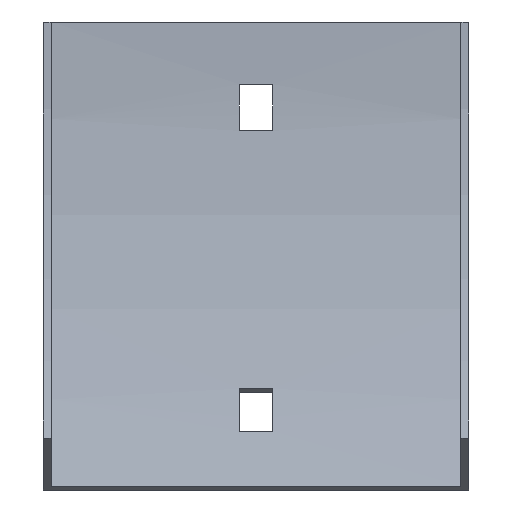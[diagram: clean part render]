
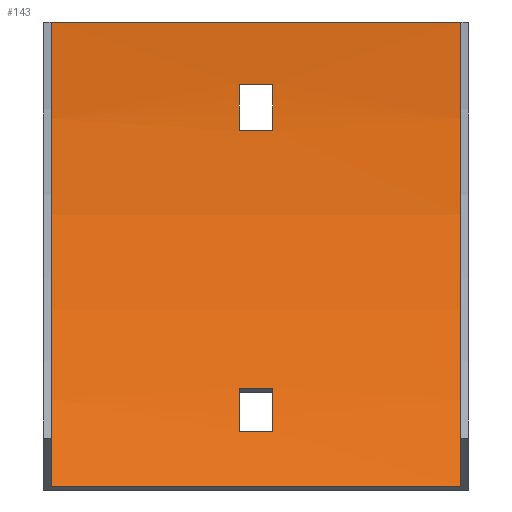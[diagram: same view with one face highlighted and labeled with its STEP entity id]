
A CAD part, front view. The second image highlights one B-rep face of the part: STEP entity #143.
In plain terms, the highlighted cylindrical face has radius 179 mm (diameter 358 mm), a partial arc.
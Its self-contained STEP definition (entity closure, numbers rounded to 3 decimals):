
#4 = CIRCLE ( 'NONE', #497, 179. ) ;
#5 = DIRECTION ( 'NONE',  ( 1., 0., 0. ) ) ;
#16 = CARTESIAN_POINT ( 'NONE',  ( 39.5, -1.5, 0. ) ) ;
#19 = ORIENTED_EDGE ( 'NONE', *, *, #337, .F. ) ;
#20 = AXIS2_PLACEMENT_3D ( 'NONE', #213, #265, #461 ) ;
#30 = CARTESIAN_POINT ( 'NONE',  ( -3.25, -180.5, 0. ) ) ;
#38 = LINE ( 'NONE', #74, #429 ) ;
#40 = AXIS2_PLACEMENT_3D ( 'NONE', #131, #272, #495 ) ;
#41 = DIRECTION ( 'NONE',  ( 0., 0., 1. ) ) ;
#43 = VERTEX_POINT ( 'NONE', #153 ) ;
#46 = DIRECTION ( 'NONE',  ( 0., 0., 1. ) ) ;
#56 = DIRECTION ( 'NONE',  ( 1., 0., 0. ) ) ;
#58 = EDGE_CURVE ( 'NONE', #494, #322, #485, .T. ) ;
#65 = VECTOR ( 'NONE', #194, 1000. ) ;
#74 = CARTESIAN_POINT ( 'NONE',  ( 39.5, -25.481, -89.5 ) ) ;
#75 = VERTEX_POINT ( 'NONE', #116 ) ;
#78 = CARTESIAN_POINT ( 'NONE',  ( -3.25, -1.903, -12. ) ) ;
#79 = CIRCLE ( 'NONE', #40, 179. ) ;
#85 = LINE ( 'NONE', #359, #550 ) ;
#102 = AXIS2_PLACEMENT_3D ( 'NONE', #30, #124, #41 ) ;
#105 = DIRECTION ( 'NONE',  ( -1., 0., 0. ) ) ;
#106 = AXIS2_PLACEMENT_3D ( 'NONE', #524, #105, #582 ) ;
#116 = CARTESIAN_POINT ( 'NONE',  ( -39.5, -25.481, -89.5 ) ) ;
#120 = CARTESIAN_POINT ( 'NONE',  ( 3.25, -16.052, -70.695 ) ) ;
#123 = VERTEX_POINT ( 'NONE', #120 ) ;
#124 = DIRECTION ( 'NONE',  ( -1., 0., 0. ) ) ;
#131 = CARTESIAN_POINT ( 'NONE',  ( 3.25, -180.5, 0. ) ) ;
#137 = CARTESIAN_POINT ( 'NONE',  ( -3.25, -2.736, -21. ) ) ;
#139 = CARTESIAN_POINT ( 'NONE',  ( -39.5, -180.5, 0. ) ) ;
#141 = LINE ( 'NONE', #329, #65 ) ;
#143 = ADVANCED_FACE ( 'NONE', ( #491, #577, #398 ), #341, .F. ) ;
#147 = CIRCLE ( 'NONE', #489, 179. ) ;
#153 = CARTESIAN_POINT ( 'NONE',  ( 39.5, -25.481, -89.5 ) ) ;
#162 = ORIENTED_EDGE ( 'NONE', *, *, #273, .F. ) ;
#182 = EDGE_CURVE ( 'NONE', #43, #75, #38, .T. ) ;
#189 = VERTEX_POINT ( 'NONE', #327 ) ;
#194 = DIRECTION ( 'NONE',  ( -1., 0., 0. ) ) ;
#196 = CARTESIAN_POINT ( 'NONE',  ( 3.25, -19.83, -78.906 ) ) ;
#206 = DIRECTION ( 'NONE',  ( -1., 0., 0. ) ) ;
#213 = CARTESIAN_POINT ( 'NONE',  ( 3.25, -180.5, 0. ) ) ;
#217 = EDGE_LOOP ( 'NONE', ( #162, #234, #221, #501 ) ) ;
#221 = ORIENTED_EDGE ( 'NONE', *, *, #573, .F. ) ;
#226 = CARTESIAN_POINT ( 'NONE',  ( 3.25, -2.736, -21. ) ) ;
#233 = VECTOR ( 'NONE', #431, 1000. ) ;
#234 = ORIENTED_EDGE ( 'NONE', *, *, #387, .F. ) ;
#238 = AXIS2_PLACEMENT_3D ( 'NONE', #139, #383, #46 ) ;
#246 = EDGE_CURVE ( 'NONE', #261, #285, #85, .T. ) ;
#261 = VERTEX_POINT ( 'NONE', #137 ) ;
#265 = DIRECTION ( 'NONE',  ( -1., 0., 0. ) ) ;
#269 = DIRECTION ( 'NONE',  ( 1., 0., 0. ) ) ;
#270 = EDGE_CURVE ( 'NONE', #123, #494, #287, .T. ) ;
#272 = DIRECTION ( 'NONE',  ( 1., 0., 0. ) ) ;
#273 = EDGE_CURVE ( 'NONE', #595, #261, #368, .T. ) ;
#275 = VERTEX_POINT ( 'NONE', #374 ) ;
#284 = DIRECTION ( 'NONE',  ( -1., 0., 0. ) ) ;
#285 = VERTEX_POINT ( 'NONE', #226 ) ;
#287 = CIRCLE ( 'NONE', #20, 179. ) ;
#288 = DIRECTION ( 'NONE',  ( 0., 0., -1. ) ) ;
#293 = ORIENTED_EDGE ( 'NONE', *, *, #414, .T. ) ;
#322 = VERTEX_POINT ( 'NONE', #470 ) ;
#327 = CARTESIAN_POINT ( 'NONE',  ( -39.5, -1.5, 0. ) ) ;
#329 = CARTESIAN_POINT ( 'NONE',  ( 41., -1.903, -12. ) ) ;
#330 = ORIENTED_EDGE ( 'NONE', *, *, #342, .T. ) ;
#331 = CARTESIAN_POINT ( 'NONE',  ( 39.5, -180.5, 0. ) ) ;
#332 = VERTEX_POINT ( 'NONE', #425 ) ;
#334 = CARTESIAN_POINT ( 'NONE',  ( -3.25, -180.5, 0. ) ) ;
#337 = EDGE_CURVE ( 'NONE', #75, #189, #508, .T. ) ;
#339 = EDGE_CURVE ( 'NONE', #275, #123, #567, .T. ) ;
#341 = CYLINDRICAL_SURFACE ( 'NONE', #106, 179. ) ;
#342 = EDGE_CURVE ( 'NONE', #322, #275, #147, .T. ) ;
#346 = CARTESIAN_POINT ( 'NONE',  ( 41., -19.83, -78.906 ) ) ;
#356 = ORIENTED_EDGE ( 'NONE', *, *, #380, .T. ) ;
#359 = CARTESIAN_POINT ( 'NONE',  ( 41., -2.736, -21. ) ) ;
#368 = CIRCLE ( 'NONE', #102, 179. ) ;
#371 = DIRECTION ( 'NONE',  ( -1., 0., 0. ) ) ;
#374 = CARTESIAN_POINT ( 'NONE',  ( -3.25, -16.052, -70.695 ) ) ;
#377 = EDGE_LOOP ( 'NONE', ( #560, #330, #598, #605 ) ) ;
#380 = EDGE_CURVE ( 'NONE', #43, #499, #4, .T. ) ;
#383 = DIRECTION ( 'NONE',  ( 1., 0., 0. ) ) ;
#385 = EDGE_LOOP ( 'NONE', ( #19, #543, #356, #293 ) ) ;
#387 = EDGE_CURVE ( 'NONE', #332, #595, #141, .T. ) ;
#398 = FACE_BOUND ( 'NONE', #377, .T. ) ;
#414 = EDGE_CURVE ( 'NONE', #499, #189, #512, .T. ) ;
#425 = CARTESIAN_POINT ( 'NONE',  ( 3.25, -1.903, -12. ) ) ;
#429 = VECTOR ( 'NONE', #371, 1000. ) ;
#431 = DIRECTION ( 'NONE',  ( 1., 0., 0. ) ) ;
#461 = DIRECTION ( 'NONE',  ( 0., 0., 1. ) ) ;
#463 = VECTOR ( 'NONE', #206, 1000. ) ;
#470 = CARTESIAN_POINT ( 'NONE',  ( -3.25, -19.83, -78.906 ) ) ;
#474 = VECTOR ( 'NONE', #284, 1000. ) ;
#485 = LINE ( 'NONE', #346, #463 ) ;
#489 = AXIS2_PLACEMENT_3D ( 'NONE', #334, #56, #288 ) ;
#491 = FACE_BOUND ( 'NONE', #217, .T. ) ;
#494 = VERTEX_POINT ( 'NONE', #196 ) ;
#495 = DIRECTION ( 'NONE',  ( 0., 0., -1. ) ) ;
#497 = AXIS2_PLACEMENT_3D ( 'NONE', #331, #5, #574 ) ;
#499 = VERTEX_POINT ( 'NONE', #16 ) ;
#501 = ORIENTED_EDGE ( 'NONE', *, *, #246, .F. ) ;
#508 = CIRCLE ( 'NONE', #238, 179. ) ;
#512 = LINE ( 'NONE', #568, #474 ) ;
#524 = CARTESIAN_POINT ( 'NONE',  ( 41., -180.5, 0. ) ) ;
#543 = ORIENTED_EDGE ( 'NONE', *, *, #182, .F. ) ;
#550 = VECTOR ( 'NONE', #269, 1000. ) ;
#560 = ORIENTED_EDGE ( 'NONE', *, *, #58, .T. ) ;
#561 = CARTESIAN_POINT ( 'NONE',  ( 41., -16.052, -70.695 ) ) ;
#567 = LINE ( 'NONE', #561, #233 ) ;
#568 = CARTESIAN_POINT ( 'NONE',  ( 39.5, -1.5, 0. ) ) ;
#573 = EDGE_CURVE ( 'NONE', #285, #332, #79, .T. ) ;
#574 = DIRECTION ( 'NONE',  ( 0., 0., 1. ) ) ;
#577 = FACE_OUTER_BOUND ( 'NONE', #385, .T. ) ;
#582 = DIRECTION ( 'NONE',  ( 0., 0., 1. ) ) ;
#595 = VERTEX_POINT ( 'NONE', #78 ) ;
#598 = ORIENTED_EDGE ( 'NONE', *, *, #339, .T. ) ;
#605 = ORIENTED_EDGE ( 'NONE', *, *, #270, .T. ) ;
